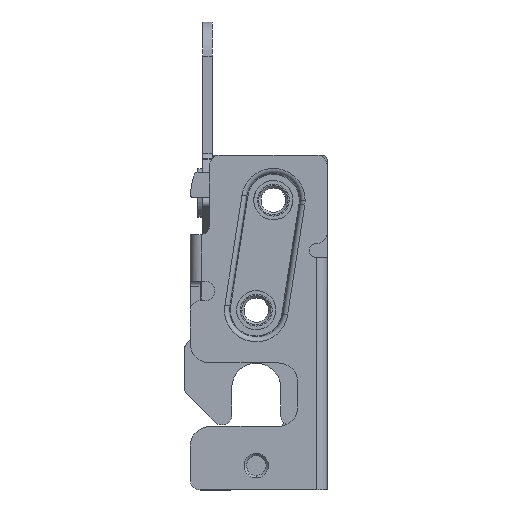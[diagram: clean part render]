
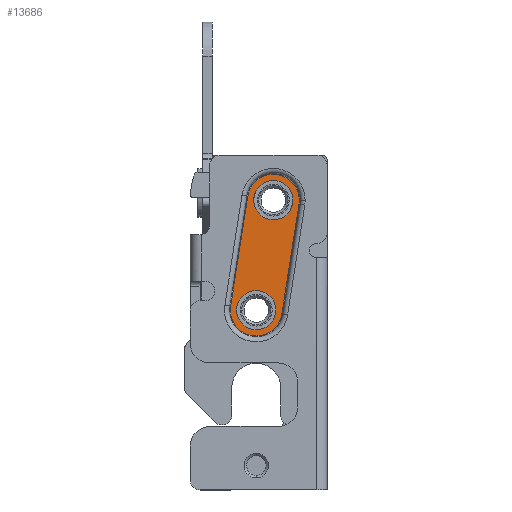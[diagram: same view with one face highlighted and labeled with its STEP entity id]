
A CAD part, front view. The second image highlights one B-rep face of the part: STEP entity #13686.
In plain terms, the highlighted planar face has unit normal (0, -1, 0).
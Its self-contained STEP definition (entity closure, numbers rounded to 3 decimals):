
#568 = CARTESIAN_POINT ( 'NONE',  ( 4.737, 1.2, 1.735 ) ) ;
#955 = CARTESIAN_POINT ( 'NONE',  ( -1., 1.2, 25.05 ) ) ;
#1071 = CARTESIAN_POINT ( 'NONE',  ( 3., 1.2, 25.05 ) ) ;
#1608 = CIRCLE ( 'NONE', #31110, 5.3 ) ;
#1961 = DIRECTION ( 'NONE',  ( 1., 0., 0. ) ) ;
#2371 = FACE_OUTER_BOUND ( 'NONE', #4206, .T. ) ;
#3182 = EDGE_CURVE ( 'NONE', #8582, #32051, #3206, .T. ) ;
#3206 = CIRCLE ( 'NONE', #3423, 4. ) ;
#3423 = AXIS2_PLACEMENT_3D ( 'NONE', #27133, #12871, #25267 ) ;
#3587 = DIRECTION ( 'NONE',  ( 1., 0., 0. ) ) ;
#3976 = DIRECTION ( 'NONE',  ( 0., -1., 0. ) ) ;
#4206 = EDGE_LOOP ( 'NONE', ( #27441, #19783, #20906, #17251, #13254 ) ) ;
#4706 = EDGE_CURVE ( 'NONE', #28545, #21996, #7676, .T. ) ;
#5480 = EDGE_CURVE ( 'NONE', #32051, #8582, #14717, .T. ) ;
#5980 = VERTEX_POINT ( 'NONE', #955 ) ;
#6554 = EDGE_CURVE ( 'NONE', #16888, #17219, #30235, .T. ) ;
#6619 = CARTESIAN_POINT ( 'NONE',  ( -5.737, 1.2, 3.365 ) ) ;
#6692 = CIRCLE ( 'NONE', #31917, 5.3 ) ;
#7214 = CARTESIAN_POINT ( 'NONE',  ( -2.237, 1.2, 25.865 ) ) ;
#7295 = CARTESIAN_POINT ( 'NONE',  ( 3., 1.2, 25.05 ) ) ;
#7676 = CIRCLE ( 'NONE', #21190, 5.3 ) ;
#7981 = DIRECTION ( 'NONE',  ( 0., 1., 0. ) ) ;
#8005 = DIRECTION ( 'NONE',  ( -0.154, 0., -0.988 ) ) ;
#8582 = VERTEX_POINT ( 'NONE', #16078 ) ;
#9811 = DIRECTION ( 'NONE',  ( 1., 0., 0. ) ) ;
#10934 = DIRECTION ( 'NONE',  ( 0.154, 0., 0.988 ) ) ;
#11659 = ORIENTED_EDGE ( 'NONE', *, *, #3182, .T. ) ;
#11899 = CARTESIAN_POINT ( 'NONE',  ( 8.3, 1.2, 25.05 ) ) ;
#12059 = DIRECTION ( 'NONE',  ( 1., 0., 0. ) ) ;
#12278 = DIRECTION ( 'NONE',  ( 0., -1., 0. ) ) ;
#12375 = CARTESIAN_POINT ( 'NONE',  ( 3., 1.2, 25.05 ) ) ;
#12566 = EDGE_LOOP ( 'NONE', ( #15925, #13006 ) ) ;
#12871 = DIRECTION ( 'NONE',  ( 0., 1., 0. ) ) ;
#13006 = ORIENTED_EDGE ( 'NONE', *, *, #22811, .T. ) ;
#13254 = ORIENTED_EDGE ( 'NONE', *, *, #13901, .T. ) ;
#13686 = ADVANCED_FACE ( 'NONE', ( #2371, #21505, #28113 ), #14141, .T. ) ;
#13901 = EDGE_CURVE ( 'NONE', #24438, #16888, #6692, .T. ) ;
#14141 = PLANE ( 'NONE',  #25242 ) ;
#14717 = CIRCLE ( 'NONE', #27240, 4. ) ;
#15925 = ORIENTED_EDGE ( 'NONE', *, *, #31582, .T. ) ;
#16078 = CARTESIAN_POINT ( 'NONE',  ( 3.5, 1.2, 2.55 ) ) ;
#16183 = CARTESIAN_POINT ( 'NONE',  ( -4.5, 1.2, 2.55 ) ) ;
#16888 = VERTEX_POINT ( 'NONE', #568 ) ;
#16947 = DIRECTION ( 'NONE',  ( 0., -1., 0. ) ) ;
#17219 = VERTEX_POINT ( 'NONE', #20953 ) ;
#17251 = ORIENTED_EDGE ( 'NONE', *, *, #20507, .T. ) ;
#17766 = CARTESIAN_POINT ( 'NONE',  ( 7., 1.2, 25.05 ) ) ;
#18532 = DIRECTION ( 'NONE',  ( 0., 1., 0. ) ) ;
#18620 = DIRECTION ( 'NONE',  ( 1., 0., 0. ) ) ;
#18738 = DIRECTION ( 'NONE',  ( 0., 1., 0. ) ) ;
#18844 = CARTESIAN_POINT ( 'NONE',  ( -0.5, 1.2, 2.55 ) ) ;
#19107 = DIRECTION ( 'NONE',  ( 1., 0., 0. ) ) ;
#19422 = VECTOR ( 'NONE', #8005, 1000. ) ;
#19783 = ORIENTED_EDGE ( 'NONE', *, *, #28880, .T. ) ;
#19838 = EDGE_LOOP ( 'NONE', ( #11659, #23728 ) ) ;
#20265 = CIRCLE ( 'NONE', #26966, 4. ) ;
#20507 = EDGE_CURVE ( 'NONE', #21996, #24438, #26836, .T. ) ;
#20906 = ORIENTED_EDGE ( 'NONE', *, *, #4706, .T. ) ;
#20953 = CARTESIAN_POINT ( 'NONE',  ( 8.237, 1.2, 24.235 ) ) ;
#21190 = AXIS2_PLACEMENT_3D ( 'NONE', #12375, #12278, #12059 ) ;
#21505 = FACE_BOUND ( 'NONE', #12566, .T. ) ;
#21996 = VERTEX_POINT ( 'NONE', #7214 ) ;
#22705 = AXIS2_PLACEMENT_3D ( 'NONE', #1071, #18532, #3587 ) ;
#22811 = EDGE_CURVE ( 'NONE', #5980, #27535, #29197, .T. ) ;
#22886 = CARTESIAN_POINT ( 'NONE',  ( 3., 1.2, 25.05 ) ) ;
#22913 = CARTESIAN_POINT ( 'NONE',  ( -5.737, 1.2, 3.365 ) ) ;
#23728 = ORIENTED_EDGE ( 'NONE', *, *, #5480, .T. ) ;
#24438 = VERTEX_POINT ( 'NONE', #6619 ) ;
#24739 = DIRECTION ( 'NONE',  ( 0., -1., 0. ) ) ;
#25242 = AXIS2_PLACEMENT_3D ( 'NONE', #31509, #3976, #19107 ) ;
#25267 = DIRECTION ( 'NONE',  ( 1., 0., 0. ) ) ;
#25399 = DIRECTION ( 'NONE',  ( 1., 0., 0. ) ) ;
#25846 = CARTESIAN_POINT ( 'NONE',  ( 4.737, 1.2, 1.735 ) ) ;
#26836 = LINE ( 'NONE', #22913, #19422 ) ;
#26966 = AXIS2_PLACEMENT_3D ( 'NONE', #22886, #7981, #25399 ) ;
#27133 = CARTESIAN_POINT ( 'NONE',  ( -0.5, 1.2, 2.55 ) ) ;
#27240 = AXIS2_PLACEMENT_3D ( 'NONE', #18844, #18738, #18620 ) ;
#27441 = ORIENTED_EDGE ( 'NONE', *, *, #6554, .T. ) ;
#27535 = VERTEX_POINT ( 'NONE', #17766 ) ;
#28113 = FACE_BOUND ( 'NONE', #19838, .T. ) ;
#28545 = VERTEX_POINT ( 'NONE', #11899 ) ;
#28880 = EDGE_CURVE ( 'NONE', #17219, #28545, #1608, .T. ) ;
#29197 = CIRCLE ( 'NONE', #22705, 4. ) ;
#30235 = LINE ( 'NONE', #25846, #31795 ) ;
#31110 = AXIS2_PLACEMENT_3D ( 'NONE', #7295, #24739, #9811 ) ;
#31509 = CARTESIAN_POINT ( 'NONE',  ( -0.5, 1.2, 2.55 ) ) ;
#31582 = EDGE_CURVE ( 'NONE', #27535, #5980, #20265, .T. ) ;
#31795 = VECTOR ( 'NONE', #10934, 1000. ) ;
#31821 = CARTESIAN_POINT ( 'NONE',  ( -0.5, 1.2, 2.55 ) ) ;
#31917 = AXIS2_PLACEMENT_3D ( 'NONE', #31821, #16947, #1961 ) ;
#32051 = VERTEX_POINT ( 'NONE', #16183 ) ;
